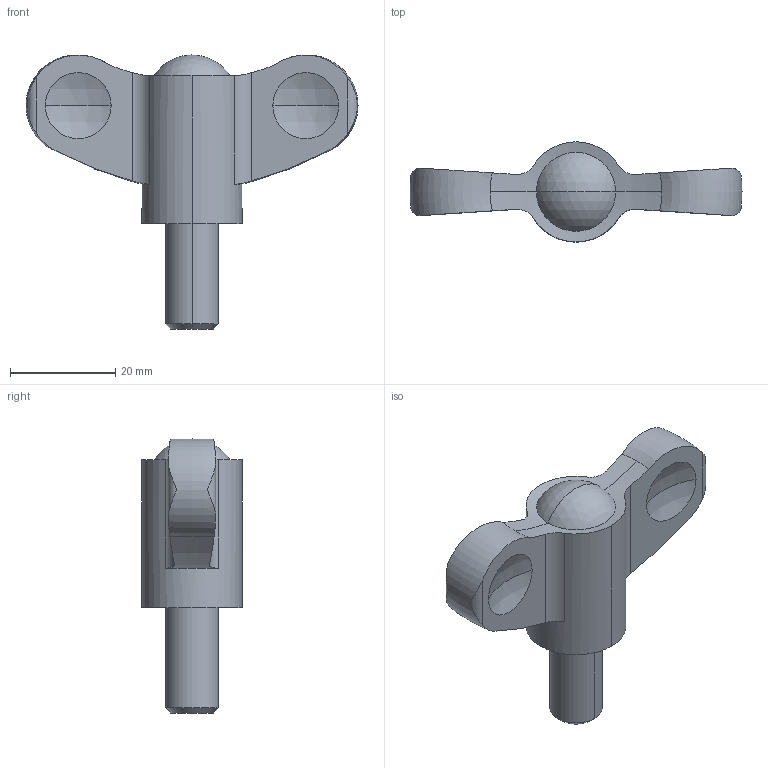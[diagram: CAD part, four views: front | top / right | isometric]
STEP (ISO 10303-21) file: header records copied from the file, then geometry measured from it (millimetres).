
FILE_DESCRIPTION (( 'STEP AP203' ), '1' );
FILE_NAME ('ewn63ax20sus-re.STEP', '2021-10-25T02:24:05', ( '' ), ( '' ), 'SwSTEP 2.0', 'SolidWorks 2020', '' );
FILE_SCHEMA (( 'CONFIG_CONTROL_DESIGN' ));
Length unit declared in the file: millimetre
Products named in the file (1): ewn63ax20sus-re
Bounding box: 63 x 19 x 52 mm (x, y, z)
Volume: 15755.9 mm3; surface area: 5157.3 mm2
Topology: 1 solids, 1 shells, 38 faces, 98 edges, 67 vertices
Faces by surface type: cylinder 14, sphere 12, plane 6, torus 4, cone 2
Entity records: 1549 total; most frequent: CARTESIAN_POINT 552, ORIENTED_EDGE 196, DIRECTION 190, EDGE_CURVE 98, AXIS2_PLACEMENT_3D 85, VERTEX_POINT 67, CIRCLE 46, EDGE_LOOP 43
